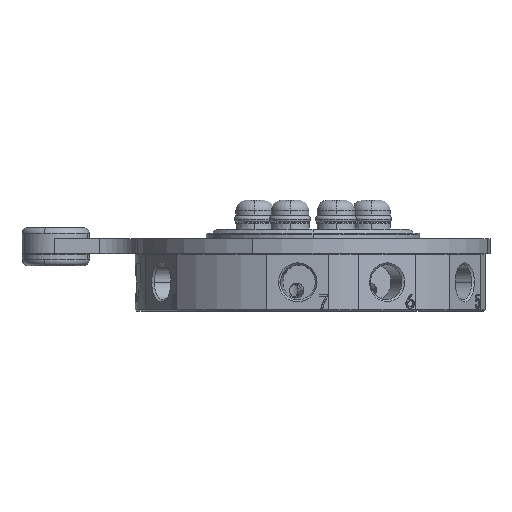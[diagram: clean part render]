
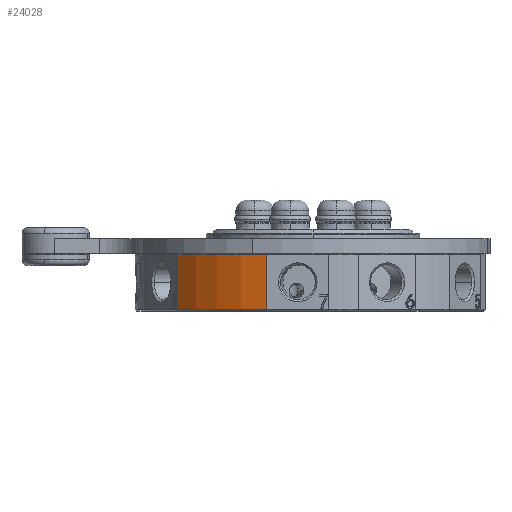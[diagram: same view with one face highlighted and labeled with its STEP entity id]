
A CAD part, left-side view. The second image highlights one B-rep face of the part: STEP entity #24028.
In plain terms, the highlighted cylindrical face has radius 45 mm (diameter 90 mm), a partial arc.
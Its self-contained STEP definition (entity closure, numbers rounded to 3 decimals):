
#2027 = VECTOR ( 'NONE', #13943, 1000. ) ;
#2171 = DIRECTION ( 'NONE',  ( 0., 0., 1. ) ) ;
#3531 = DIRECTION ( 'NONE',  ( 1., 0., 0. ) ) ;
#3603 = DIRECTION ( 'NONE',  ( 1., 0., 0. ) ) ;
#4054 = CARTESIAN_POINT ( 'NONE',  ( -28.992, 34.416, -18.387 ) ) ;
#4911 = EDGE_CURVE ( 'NONE', #18778, #59414, #42409, .T. ) ;
#6201 = CARTESIAN_POINT ( 'NONE',  ( 0., 0., -27.72 ) ) ;
#7242 = ORIENTED_EDGE ( 'NONE', *, *, #10060, .T. ) ;
#7419 = CIRCLE ( 'NONE', #52945, 45. ) ;
#9920 = CYLINDRICAL_SURFACE ( 'NONE', #15647, 45. ) ;
#10060 = EDGE_CURVE ( 'NONE', #20518, #18778, #7419, .T. ) ;
#10975 = ORIENTED_EDGE ( 'NONE', *, *, #48382, .T. ) ;
#13943 = DIRECTION ( 'NONE',  ( 0., 0., -1. ) ) ;
#15647 = AXIS2_PLACEMENT_3D ( 'NONE', #47769, #32465, #3603 ) ;
#17823 = CARTESIAN_POINT ( 'NONE',  ( 0., 0., -13.72 ) ) ;
#18024 = CARTESIAN_POINT ( 'NONE',  ( -28.992, 34.415, -27.72 ) ) ;
#18778 = VERTEX_POINT ( 'NONE', #45639 ) ;
#19324 = CIRCLE ( 'NONE', #44090, 45. ) ;
#20518 = VERTEX_POINT ( 'NONE', #60609 ) ;
#20669 = EDGE_LOOP ( 'NONE', ( #47275, #7242, #32033, #10975 ) ) ;
#24028 = ADVANCED_FACE ( 'NONE', ( #57082 ), #9920, .T. ) ;
#25442 = DIRECTION ( 'NONE',  ( -1., 0., 0. ) ) ;
#27124 = DIRECTION ( 'NONE',  ( 0., 0., -1. ) ) ;
#27781 = CARTESIAN_POINT ( 'NONE',  ( -28.992, 34.415, -27.72 ) ) ;
#31561 = VERTEX_POINT ( 'NONE', #55219 ) ;
#31758 = EDGE_CURVE ( 'NONE', #20518, #31561, #37559, .T. ) ;
#32033 = ORIENTED_EDGE ( 'NONE', *, *, #4911, .T. ) ;
#32465 = DIRECTION ( 'NONE',  ( 0., 0., 1. ) ) ;
#37559 = LINE ( 'NONE', #56463, #2027 ) ;
#42409 = B_SPLINE_CURVE_WITH_KNOTS ( 'NONE', 3,
 ( #60539, #4054, #56500, #18024 ),
 .UNSPECIFIED., .F., .F.,
 ( 4, 4 ),
 ( 0.017, 0.983 ),
 .UNSPECIFIED. ) ;
#44090 = AXIS2_PLACEMENT_3D ( 'NONE', #6201, #2171, #25442 ) ;
#45639 = CARTESIAN_POINT ( 'NONE',  ( -28.992, 34.415, -13.72 ) ) ;
#47275 = ORIENTED_EDGE ( 'NONE', *, *, #31758, .F. ) ;
#47769 = CARTESIAN_POINT ( 'NONE',  ( 0., 0., -27.97 ) ) ;
#48382 = EDGE_CURVE ( 'NONE', #59414, #31561, #19324, .T. ) ;
#52945 = AXIS2_PLACEMENT_3D ( 'NONE', #17823, #27124, #3531 ) ;
#55219 = CARTESIAN_POINT ( 'NONE',  ( -43.444, 11.731, -27.72 ) ) ;
#56463 = CARTESIAN_POINT ( 'NONE',  ( -43.444, 11.731, -27.97 ) ) ;
#56500 = CARTESIAN_POINT ( 'NONE',  ( -28.992, 34.416, -23.053 ) ) ;
#57082 = FACE_OUTER_BOUND ( 'NONE', #20669, .T. ) ;
#59414 = VERTEX_POINT ( 'NONE', #27781 ) ;
#60539 = CARTESIAN_POINT ( 'NONE',  ( -28.992, 34.415, -13.72 ) ) ;
#60609 = CARTESIAN_POINT ( 'NONE',  ( -43.444, 11.731, -13.72 ) ) ;
